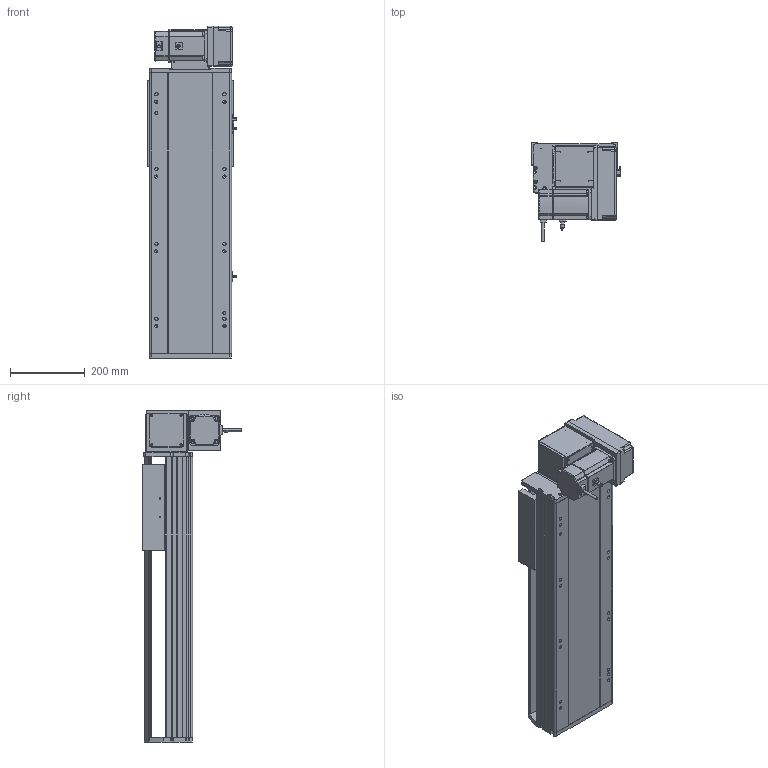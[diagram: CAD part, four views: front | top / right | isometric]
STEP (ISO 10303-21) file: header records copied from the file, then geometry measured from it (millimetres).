
FILE_DESCRIPTION (( 'STEP AP214' ), '1' );
FILE_NAME ('RTB22S-XX-400-RM-M75-C4.STEP', '2025-12-12T07:43:20', ( '' ), ( '' ), 'SwSTEP 2.0', 'SolidWorks 2018', '' );
FILE_SCHEMA (( 'AUTOMOTIVE_DESIGN' ));
Length unit declared in the file: millimetre
Products named in the file (14): OMRON EE-SX672 传感器^RTB22S-XX-XX-RM-M75-C4; RTB22S-GY-014--々湍釱^RTB22S-RM-々湍釱蚾饜_RTB22S-XX-XX-RM-M75-C4; RTB22S-GY-018P^RTB22S-RM-々湍釱蚾饜_RTB22S-XX-XX-RM-M75-C4; RTH22-GY-013外置感应片^RTB22S-XX-XX-RM-M75-C4; RTB22S-L-004賑釱^RTB22S-XX-XX-RM-M75-C4; RTB22S-GY-008-M75--萇儂啣^RTB22S-RM-々湍釱蚾饜_RTB22S-XX-XX-RM-M75-C4; RTB22S-L-011菁釱^RTB22S-XX-XX-RM-M75-C4; RTB22S-RM-々湍釱蚾饜^RTB22S-XX-XX-RM-M75-C4; RTB22S-GY-005P^RTB22S-RM-々湍釱蚾饜_RTB22S-XX-XX-RM-M75-C4; 750W萇儂^RTB22S-XX-XX-RM-M75-C4; RTB22S-GY-007奻裔^RTB22S-XX-XX-RM-M75-C4; RTB22S-GY-017P^RTB22S-RM-々湍釱蚾饜_RTB22S-XX-XX-RM-M75-C4; RTB22S-GY-001耜裔^RTB22S-XX-XX-RM-M75-C4; RTB22S-XX-400-RM-M75-C4
Assembly tree (16 placements, depth 3):
  RTB22S-XX-400-RM-M75-C4
    RTB22S-L-011菁釱^RTB22S-XX-XX-RM-M75-C4
    RTB22S-GY-001耜裔^RTB22S-XX-XX-RM-M75-C4
    750W萇儂^RTB22S-XX-XX-RM-M75-C4
    RTB22S-GY-007奻裔^RTB22S-XX-XX-RM-M75-C4
    RTB22S-L-004賑釱^RTB22S-XX-XX-RM-M75-C4
    RTH22-GY-013外置感应片^RTB22S-XX-XX-RM-M75-C4
    OMRON EE-SX672 传感器^RTB22S-XX-XX-RM-M75-C4  x3
    RTB22S-RM-々湍釱蚾饜^RTB22S-XX-XX-RM-M75-C4
      RTB22S-GY-014--々湍釱^RTB22S-RM-々湍釱蚾饜_RTB22S-XX-XX-RM-M75-C4
      RTB22S-GY-017P^RTB22S-RM-々湍釱蚾饜_RTB22S-XX-XX-RM-M75-C4  x2
      RTB22S-GY-005P^RTB22S-RM-々湍釱蚾饜_RTB22S-XX-XX-RM-M75-C4
      RTB22S-GY-008-M75--萇儂啣^RTB22S-RM-々湍釱蚾饜_RTB22S-XX-XX-RM-M75-C4
      RTB22S-GY-018P^RTB22S-RM-々湍釱蚾饜_RTB22S-XX-XX-RM-M75-C4
Bounding box: 238.5 x 264.7 x 887.5 mm (x, y, z)
Volume: 14303215.3 mm3; surface area: 1516078.4 mm2
Topology: 15 solids, 15 shells, 1911 faces, 5186 edges, 3332 vertices
Faces by surface type: plane 907, cylinder 574, bspline 296, cone 122, sphere 8, torus 4
Entity records: 50136 total; most frequent: CARTESIAN_POINT 14580, ORIENTED_EDGE 7192, DIRECTION 6850, EDGE_CURVE 3596, AXIS2_PLACEMENT_3D 2390, VERTEX_POINT 2336, VECTOR 2070, LINE 2070
